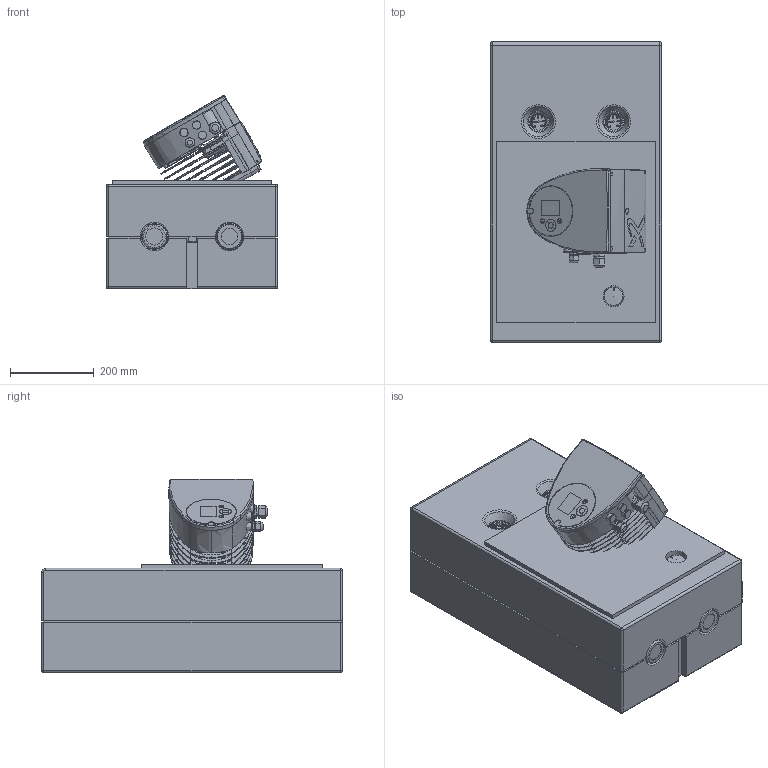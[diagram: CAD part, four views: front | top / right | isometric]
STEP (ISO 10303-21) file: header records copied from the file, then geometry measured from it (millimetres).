
FILE_DESCRIPTION((''),'2;1');
FILE_NAME('C:\Users\Moreuih\Desktop\HKM DN40 10026873 (Grundfos)\10026873-HKM DN40 (Magna3 40-100F).stp','2016-09-01T14:55:34',('Moreuih'),(''),'Autodesk Inventor 2013','Autodesk Inventor 2013','');
FILE_SCHEMA(('AUTOMOTIVE_DESIGN { 1 0 10303 214 1 1 1 1 }'));
Length unit declared in the file: millimetre
Products named in the file (6): 10026873 -  HKM DN40 (Magna3 40-100F); insulation-back; hydraulic-HKM-DN40; Stellmotor ESBE; insulation-front; Pumpe Grundfos Magna3 40-100F
Assembly tree (5 placements, depth 2):
  10026873 -  HKM DN40 (Magna3 40-100F)
    insulation-back
    hydraulic-HKM-DN40
    Stellmotor ESBE
    insulation-front
    Pumpe Grundfos Magna3 40-100F
Bounding box: 410 x 720 x 463.01 mm (x, y, z)
Volume: 45251320.7 mm3; surface area: 3330425.3 mm2
Topology: 10 solids, 11 shells, 5438 faces, 14244 edges, 9249 vertices
Faces by surface type: plane 2988, bspline 1183, cylinder 695, cone 381, torus 142, sphere 45, revolution 4
Full cylindrical faces by diameter (mm): 2 x2, 2.601 x2, 3 x2, 3.45 x2, 5 x6, 5.1 x2, 6.2 x4, 8 x8, 9 x1, 10 x2, 11 x2, 11.445 x4, 12 x21, 13 x17, 13.16 x2, 13.5 x2, 13.8 x4, 14 x8, 14.85 x1, 16.63 x8, 17 x6, 19 x3, 19.8 x1, 20 x19, 21.8 x2, 22 x1, 22.5 x1, 25.5 x1, 40 x1, 41 x1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
Entity records: 225356 total; most frequent: CARTESIAN_POINT 97541, ORIENTED_EDGE 27484, DIRECTION 21875, EDGE_CURVE 13742, VERTEX_POINT 9140, VECTOR 7467, LINE 7467, AXIS2_PLACEMENT_3D 7202
